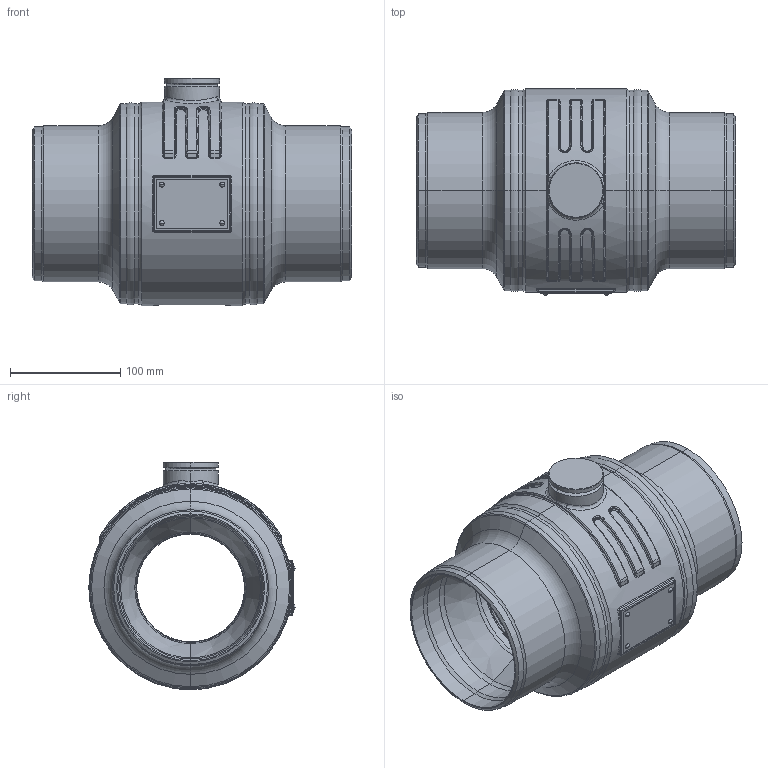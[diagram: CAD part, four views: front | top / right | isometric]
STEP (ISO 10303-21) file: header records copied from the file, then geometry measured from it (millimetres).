
FILE_DESCRIPTION((''),'2;1');
FILE_NAME('KHMO-BH-R-ISKT-1250R100P040','2025-02-11T17:05:07',('jeitlers'),('KLINGER'),'CREO PARAMETRIC BY PTC INC, 2023014','CREO PARAMETRIC BY PTC INC, 2023014','');
FILE_SCHEMA(('CONFIG_CONTROL_DESIGN'));
Length unit declared in the file: millimetre
Products named in the file (1): KHMO-BH-R-ISKT-1250R100P040
Bounding box: 290 x 187.6 x 206.5 mm (x, y, z)
Volume: 2147177.7 mm3; surface area: 531922.2 mm2
Topology: 2 solids, 2 shells, 426 faces, 1001 edges, 582 vertices
Faces by surface type: cylinder 138, torus 98, plane 70, cone 60, bspline 44, sphere 16
Entity records: 22878 total; most frequent: CARTESIAN_POINT 13244, DIRECTION 2133, ORIENTED_EDGE 1970, EDGE_CURVE 985, AXIS2_PLACEMENT_3D 922, VERTEX_POINT 582, CIRCLE 540, EDGE_LOOP 455
